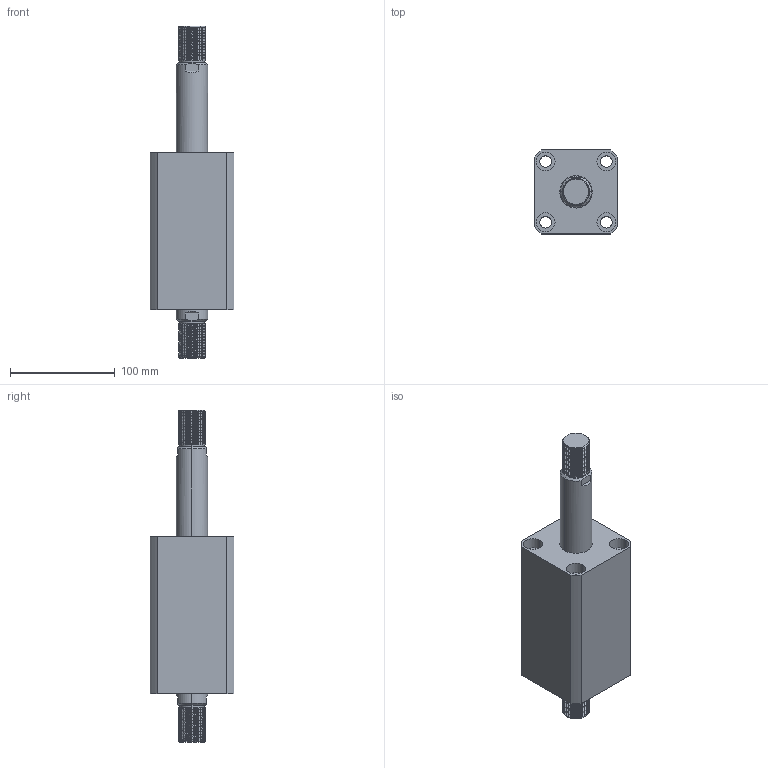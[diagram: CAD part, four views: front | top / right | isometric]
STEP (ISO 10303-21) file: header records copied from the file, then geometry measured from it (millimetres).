
FILE_DESCRIPTION (( 'STEP AP203' ), '1' );
FILE_NAME ('CHTB-SW50-75W.STEP', '2018-05-21T07:09:45', ( '' ), ( '' ), 'SwSTEP 2.0', 'SolidWorks 2015', '' );
FILE_SCHEMA (( 'CONFIG_CONTROL_DESIGN' ));
Length unit declared in the file: millimetre
Products named in the file (4): ヶ裔; 掛极SW50-75W; 活塞杆SW50-75W; CHTB-SW50-75W
Assembly tree (3 placements, depth 2):
  CHTB-SW50-75W
    掛极SW50-75W
    活塞杆SW50-75W
    ヶ裔
Bounding box: 80 x 80 x 317 mm (x, y, z)
Volume: 875939.2 mm3; surface area: 157224.7 mm2
Topology: 3 solids, 3 shells, 314 faces, 794 edges, 514 vertices
Faces by surface type: cylinder 202, plane 51, cone 29, torus 24, bspline 8
Entity records: 17377 total; most frequent: CARTESIAN_POINT 10049, ORIENTED_EDGE 1580, DIRECTION 1358, EDGE_CURVE 790, AXIS2_PLACEMENT_3D 549, VERTEX_POINT 514, EDGE_LOOP 362, FACE_OUTER_BOUND 314
